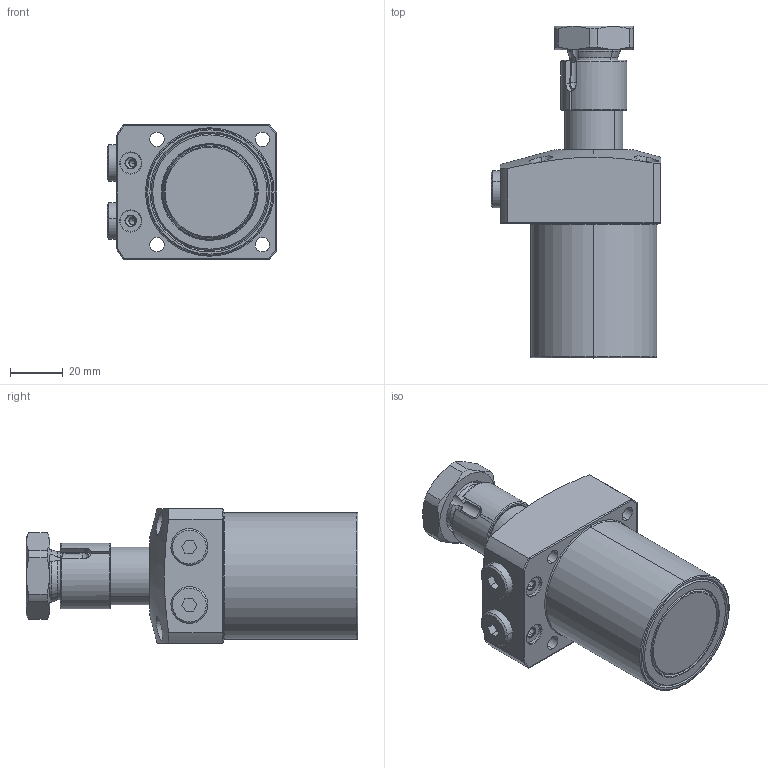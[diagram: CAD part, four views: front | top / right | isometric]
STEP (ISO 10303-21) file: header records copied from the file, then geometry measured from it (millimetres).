
FILE_DESCRIPTION(/* description */ (''),/* implementation_level */ '2;1');
FILE_NAME(/* name */ 'KTRC48-RN45.stp',/* time_stamp */ '2022-11-18T09:52:51+08:00',/* author */ (''),/* organization */ (''),/* preprocessor_version */ 'ST-DEVELOPER v16.7',/* originating_system */ 'SIEMENS PLM Software NX 12.0',/* authorisation */ '');
FILE_SCHEMA (('AP203_CONFIGURATION_CONTROLLED_3D_DESIGN_OF_MECHANICAL_PARTS_AND_ASSEMBLIES_MIM_LF { 1 0 10303 403 2 1 2}'));
Length unit declared in the file: millimetre
Products named in the file (7): KTRC48-RN45-05; KTRC48-RN45-04; KTRC48-RN45-01; KTRC48-RN45-02; KTRC48-RN45-06; KTRC48-RN45-03; LHA0480-CL-Y45_step
Assembly tree (7 placements, depth 2):
  LHA0480-CL-Y45_step
    KTRC48-RN45-03
    KTRC48-RN45-06  x2
    KTRC48-RN45-02
    KTRC48-RN45-01
    KTRC48-RN45-04
    KTRC48-RN45-05
Bounding box: 64.5 x 126 x 51 mm (x, y, z)
Volume: 191302.4 mm3; surface area: 35479.4 mm2
Topology: 7 solids, 7 shells, 242 faces, 589 edges, 373 vertices
Faces by surface type: cylinder 89, plane 78, cone 53, torus 20, sphere 2
Entity records: 8269 total; most frequent: CARTESIAN_POINT 2060, DIRECTION 1151, ORIENTED_EDGE 1118, EDGE_CURVE 559, AXIS2_PLACEMENT_3D 471, VERTEX_POINT 355, EDGE_LOOP 256, CIRCLE 234
